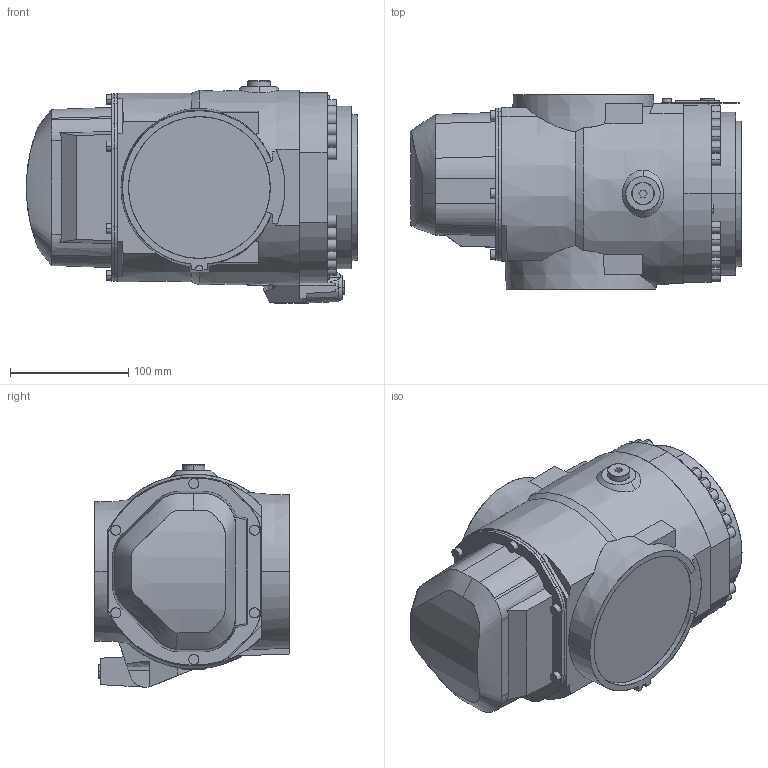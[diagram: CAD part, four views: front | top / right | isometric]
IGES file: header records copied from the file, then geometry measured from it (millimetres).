
Start section: SolidWorks IGES file using analytic representation for surfaces
Global section: file name: C:\Users\SEALDUN\OneDrive - ABB\Documents\R&D Robotics\Work Items\WI 632927\IGES\IRB5710-LID-MH_90kg-230_OC_02_IGES_J\IRB5710-LID_90kg-230_OmniCore_rev00_LINK05_CAD.igs; native system: SolidWorks 2024; preprocessor: SolidWorks 2024; author: SEALDUN; date: 250707.154217; units: millimetre
Bounding box: 280.5 x 165 x 188.59 mm (x, y, z)
Surface area: 203035.4 mm2 (no closed solid volume)
Topology: 0 solids, 0 shells, 417 faces, 6642 edges, 6642 vertices
Faces by surface type: bspline 233, revolution 184
